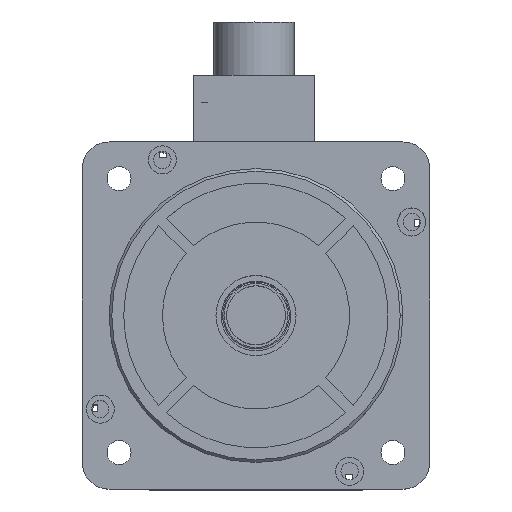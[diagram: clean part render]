
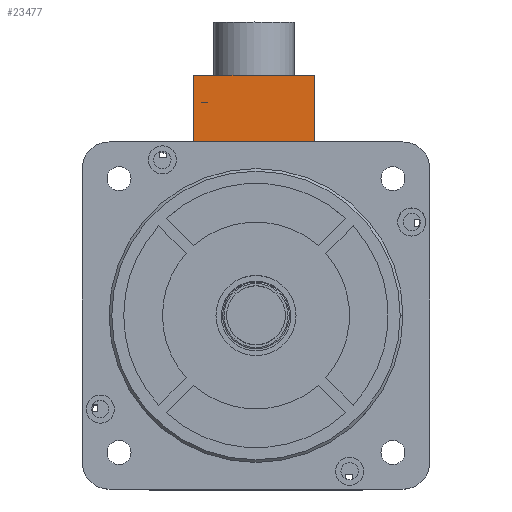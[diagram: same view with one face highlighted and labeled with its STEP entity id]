
A CAD part, top view. The second image highlights one B-rep face of the part: STEP entity #23477.
In plain terms, the highlighted planar face has unit normal (0, 0, 1) as drawn and (0, -1, 0) by its records, which use the part's own axes.
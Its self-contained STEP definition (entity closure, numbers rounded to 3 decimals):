
#305 = ORIENTED_EDGE ( 'NONE', *, *, #23918, .F. ) ;
#349 = ORIENTED_EDGE ( 'NONE', *, *, #6852, .T. ) ;
#959 = FACE_OUTER_BOUND ( 'NONE', #15167, .T. ) ;
#1279 = CARTESIAN_POINT ( 'NONE',  ( 0., 0., 0. ) ) ;
#3887 = DIRECTION ( 'NONE',  ( 0., 0., -1. ) ) ;
#4079 = CARTESIAN_POINT ( 'NONE',  ( 45., 0., -25. ) ) ;
#4847 = VECTOR ( 'NONE', #20790, 1000. ) ;
#5135 = EDGE_CURVE ( 'NONE', #10617, #9285, #21226, .T. ) ;
#5586 = VECTOR ( 'NONE', #16620, 1000. ) ;
#6130 = LINE ( 'NONE', #15002, #4847 ) ;
#6852 = EDGE_CURVE ( 'NONE', #9285, #24696, #6130, .T. ) ;
#7247 = CARTESIAN_POINT ( 'NONE',  ( 45., 0., 0. ) ) ;
#7812 = DIRECTION ( 'NONE',  ( 0., -1., 0. ) ) ;
#8081 = PLANE ( 'NONE',  #13306 ) ;
#8188 = EDGE_CURVE ( 'NONE', #10617, #13383, #9253, .T. ) ;
#8393 = CARTESIAN_POINT ( 'NONE',  ( 0., 0., -25. ) ) ;
#9253 = LINE ( 'NONE', #18798, #14074 ) ;
#9285 = VERTEX_POINT ( 'NONE', #4079 ) ;
#9922 = LINE ( 'NONE', #21620, #25190 ) ;
#10617 = VERTEX_POINT ( 'NONE', #18645 ) ;
#11467 = DIRECTION ( 'NONE',  ( 1., 0., 0. ) ) ;
#13306 = AXIS2_PLACEMENT_3D ( 'NONE', #20139, #7812, #3887 ) ;
#13383 = VERTEX_POINT ( 'NONE', #1279 ) ;
#14074 = VECTOR ( 'NONE', #24745, 1000. ) ;
#15002 = CARTESIAN_POINT ( 'NONE',  ( 45., 0., -25. ) ) ;
#15167 = EDGE_LOOP ( 'NONE', ( #305, #24189, #25570, #349 ) ) ;
#16620 = DIRECTION ( 'NONE',  ( 1., 0., 0. ) ) ;
#18645 = CARTESIAN_POINT ( 'NONE',  ( 0., 0., -25. ) ) ;
#18798 = CARTESIAN_POINT ( 'NONE',  ( 0., 0., -25. ) ) ;
#20139 = CARTESIAN_POINT ( 'NONE',  ( 0., 0., -25. ) ) ;
#20790 = DIRECTION ( 'NONE',  ( 0., 0., 1. ) ) ;
#21226 = LINE ( 'NONE', #8393, #5586 ) ;
#21620 = CARTESIAN_POINT ( 'NONE',  ( 0., 0., 0. ) ) ;
#23477 = ADVANCED_FACE ( 'NONE', ( #959 ), #8081, .T. ) ;
#23918 = EDGE_CURVE ( 'NONE', #13383, #24696, #9922, .T. ) ;
#24189 = ORIENTED_EDGE ( 'NONE', *, *, #8188, .F. ) ;
#24696 = VERTEX_POINT ( 'NONE', #7247 ) ;
#24745 = DIRECTION ( 'NONE',  ( 0., 0., 1. ) ) ;
#25190 = VECTOR ( 'NONE', #11467, 1000. ) ;
#25570 = ORIENTED_EDGE ( 'NONE', *, *, #5135, .T. ) ;
